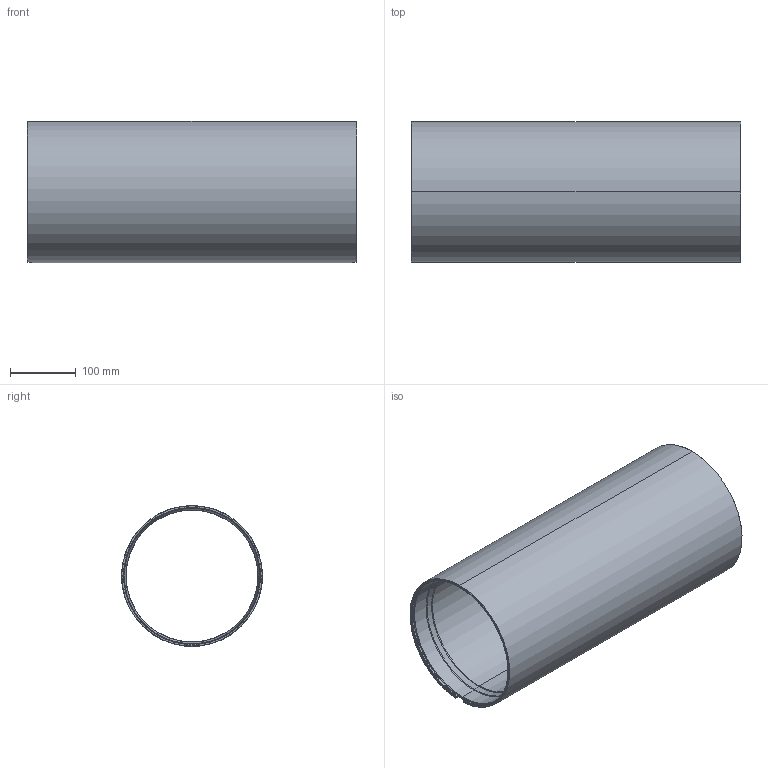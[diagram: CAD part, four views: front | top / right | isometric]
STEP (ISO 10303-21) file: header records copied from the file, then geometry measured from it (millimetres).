
FILE_DESCRIPTION (( 'STEP AP203' ), '1' );
FILE_NAME ('BR-106282-500_RevA.step', '2026-01-13T23:32:46', ( '' ), ( '' ), 'SwSTEP 2.0', 'SolidWorks 2024', '' );
FILE_SCHEMA (( 'CONFIG_CONTROL_DESIGN' ));
Length unit declared in the file: millimetre
Products named in the file (1): BR-106282-500
Bounding box: 500 x 214.01 x 214.2 mm (x, y, z)
Volume: 2153111.3 mm3; surface area: 657140.7 mm2
Topology: 1 solids, 1 shells, 78 faces, 196 edges, 118 vertices
Faces by surface type: torus 20, cylinder 20, cone 14, plane 12, bspline 12
Entity records: 4373 total; most frequent: CARTESIAN_POINT 2573, ORIENTED_EDGE 392, DIRECTION 326, EDGE_CURVE 196, AXIS2_PLACEMENT_3D 143, VERTEX_POINT 118, ADVANCED_FACE 78, EDGE_LOOP 78
